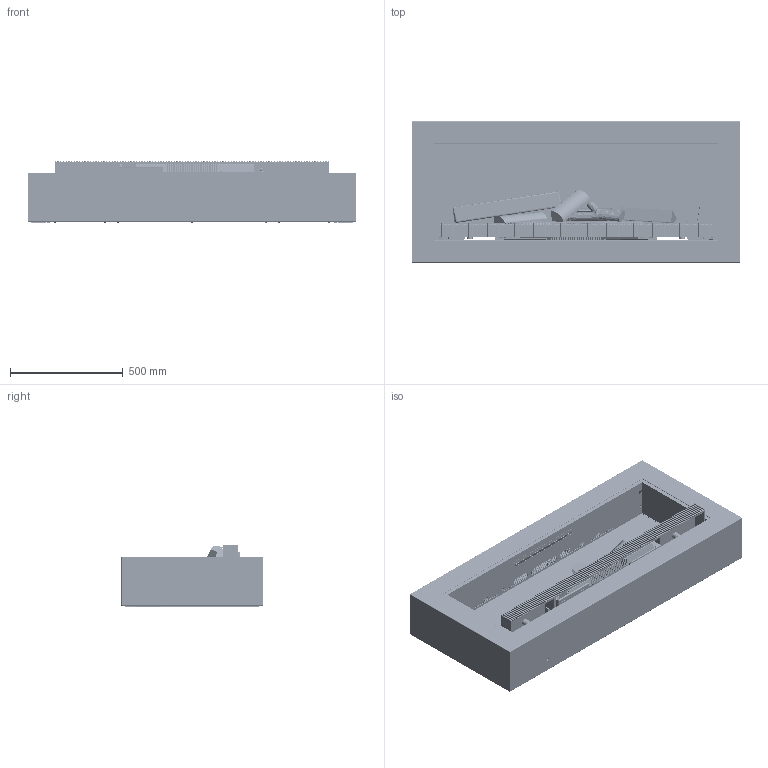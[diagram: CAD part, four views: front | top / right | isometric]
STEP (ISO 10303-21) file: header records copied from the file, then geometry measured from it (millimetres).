
FILE_DESCRIPTION (( 'STEP AP203' ), '1' );
FILE_NAME ('E Series E55 Design Frame.STEP', '2024-03-12T09:54:22', ( '' ), ( '' ), 'SwSTEP 2.0', 'SolidWorks 2020', '' );
FILE_SCHEMA (( 'CONFIG_CONTROL_DESIGN' ));
Length unit declared in the file: millimetre
Products named in the file (82): KF06215; KF05909; KF06459; KF05903; KF06611; KF05853; KF06609; KF05904; KF05848_Built in ; KF06573; KF06362; KF06125; KF05847; KF06717_Left - Bend ; KF05850_Inschijner; KF05852; KF05962_Hand set bends; KF05976; KF06679; KF05844; KF05910; KF06555; KF05836; KF06605; KF05900; KF06608; KF05961; KF04060; KF06088; KF06603; KF05846; KF04074; KF05861; KF04895; KF06545; KF05912; KF06604; KF05845; KF06717_Right - Bend; KF05915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
Assembly tree (214 placements, depth 7):
  E Series E55 Design Frame
    KF05834_KALFIRE E55 
      KF05850_Inschijner
        KF05976
        KF06110
          KF05853
          KF06109
        KF06111
          KF05852
          KF06109
        KF06679  x2
      KF05836
      KF06215
        KF06362
          KF05846  x2
            KF05847
            KF06057
            KF04020
            KF06545
          KF05912
            KF05904
            KF04020  x9
          KF05903
          KF05919
            KF05902
            KF04020  x3
            KF04060  x4
          KF05910
            KF05901
            KF04079  x2
            KF04020  x3
          KF05909
            KF05900
            KF04079  x2
            KF04020  x3
          KF05917_Built in
            KF05848_Built in 
            KF04020  x2
            KF04003  x4
          KF06368
            KF06364
          KF06370
            KF06369
            KF04020
          KF06125
          KF06124
          KF06681
            KF06683_Built in
            KF06684_Built in
            KF06717_Left - Bend 
            KF06717_Right - Bend
        KF06459
          KF06550
            KF06083_Built in version
              KF05962_Hand set bends
              KF04020  x2
            KF05964
              KF05961
              KF04221  x10
              KF04003  x5
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Bounding box: 1458 x 627 x 277.5 mm (x, y, z)
Volume: 48345087.8 mm3; surface area: 12690089.4 mm2
Topology: 207 solids, 256 shells, 13549 faces, 34183 edges, 21368 vertices
Faces by surface type: plane 8148, cylinder 3619, cone 1296, bspline 261, torus 151, sphere 74
Entity records: 306892 total; most frequent: CARTESIAN_POINT 72312, ORIENTED_EDGE 46388, DIRECTION 46012, EDGE_CURVE 23194, LINE 16522, VECTOR 16522, AXIS2_PLACEMENT_3D 14745, VERTEX_POINT 14436
